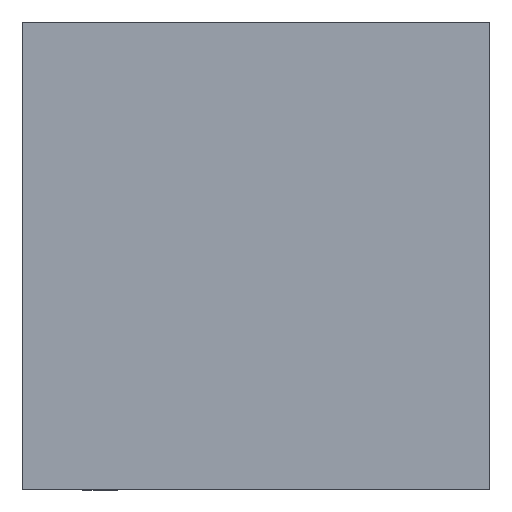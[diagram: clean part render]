
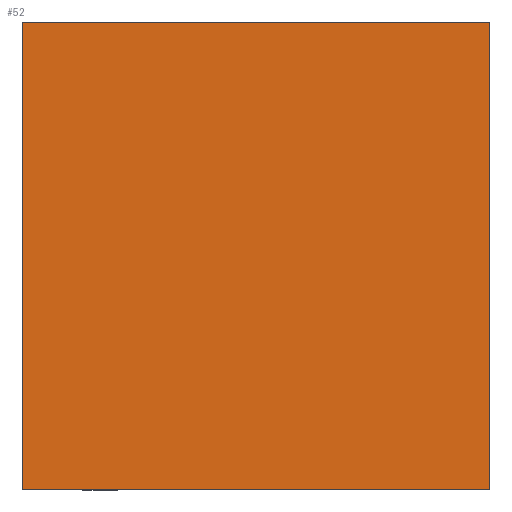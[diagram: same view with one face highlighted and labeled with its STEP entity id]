
A CAD part, top view. The second image highlights one B-rep face of the part: STEP entity #52.
In plain terms, the highlighted planar face has unit normal (0, 0, 1).
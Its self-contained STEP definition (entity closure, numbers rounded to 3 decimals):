
#51 = VERTEX_POINT ( 'NONE', #1824 ) ;
#52 = ADVANCED_FACE ( 'NONE', ( #1175 ), #1837, .T. ) ;
#56 = LINE ( 'NONE', #490, #1234 ) ;
#131 = LINE ( 'NONE', #645, #1656 ) ;
#341 = LINE ( 'NONE', #1565, #1172 ) ;
#387 = DIRECTION ( 'NONE',  ( 0., -1., 0. ) ) ;
#478 = EDGE_CURVE ( 'NONE', #51, #1269, #131, .T. ) ;
#488 = DIRECTION ( 'NONE',  ( 0., 0., 1. ) ) ;
#490 = CARTESIAN_POINT ( 'NONE',  ( 1.5, 1.5, 0.73 ) ) ;
#565 = DIRECTION ( 'NONE',  ( -1., 0., 0. ) ) ;
#625 = EDGE_CURVE ( 'NONE', #900, #51, #341, .T. ) ;
#645 = CARTESIAN_POINT ( 'NONE',  ( -1.5, -1.5, 0.73 ) ) ;
#665 = CARTESIAN_POINT ( 'NONE',  ( 1.5, -1.5, 0.73 ) ) ;
#686 = LINE ( 'NONE', #1165, #1418 ) ;
#769 = EDGE_LOOP ( 'NONE', ( #1703, #1416, #1615, #1747 ) ) ;
#900 = VERTEX_POINT ( 'NONE', #1781 ) ;
#949 = DIRECTION ( 'NONE',  ( 1., 0., 0. ) ) ;
#1094 = CARTESIAN_POINT ( 'NONE',  ( 0., 0., 0.73 ) ) ;
#1102 = VERTEX_POINT ( 'NONE', #1666 ) ;
#1157 = EDGE_CURVE ( 'NONE', #1269, #1102, #56, .T. ) ;
#1165 = CARTESIAN_POINT ( 'NONE',  ( -1.5, 1.5, 0.73 ) ) ;
#1172 = VECTOR ( 'NONE', #387, 1000. ) ;
#1175 = FACE_OUTER_BOUND ( 'NONE', #769, .T. ) ;
#1234 = VECTOR ( 'NONE', #1524, 1000. ) ;
#1269 = VERTEX_POINT ( 'NONE', #665 ) ;
#1416 = ORIENTED_EDGE ( 'NONE', *, *, #1505, .T. ) ;
#1418 = VECTOR ( 'NONE', #565, 1000. ) ;
#1505 = EDGE_CURVE ( 'NONE', #1102, #900, #686, .T. ) ;
#1524 = DIRECTION ( 'NONE',  ( 0., 1., 0. ) ) ;
#1565 = CARTESIAN_POINT ( 'NONE',  ( -1.5, 1.5, 0.73 ) ) ;
#1615 = ORIENTED_EDGE ( 'NONE', *, *, #625, .T. ) ;
#1656 = VECTOR ( 'NONE', #1832, 1000. ) ;
#1666 = CARTESIAN_POINT ( 'NONE',  ( 1.5, 1.5, 0.73 ) ) ;
#1703 = ORIENTED_EDGE ( 'NONE', *, *, #1157, .T. ) ;
#1747 = ORIENTED_EDGE ( 'NONE', *, *, #478, .T. ) ;
#1781 = CARTESIAN_POINT ( 'NONE',  ( -1.5, 1.5, 0.73 ) ) ;
#1824 = CARTESIAN_POINT ( 'NONE',  ( -1.5, -1.5, 0.73 ) ) ;
#1832 = DIRECTION ( 'NONE',  ( 1., 0., 0. ) ) ;
#1835 = AXIS2_PLACEMENT_3D ( 'NONE', #1094, #488, #949 ) ;
#1837 = PLANE ( 'NONE',  #1835 ) ;
